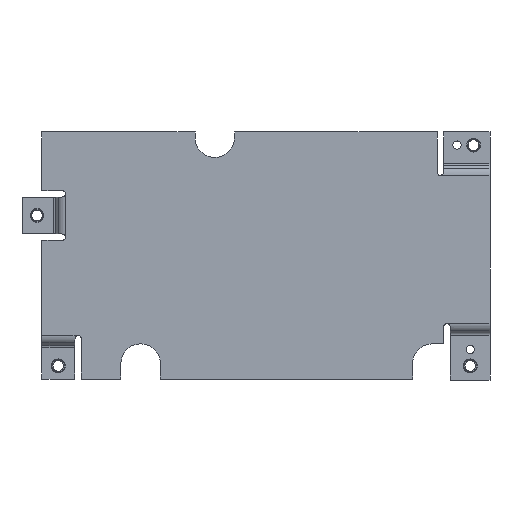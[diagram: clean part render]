
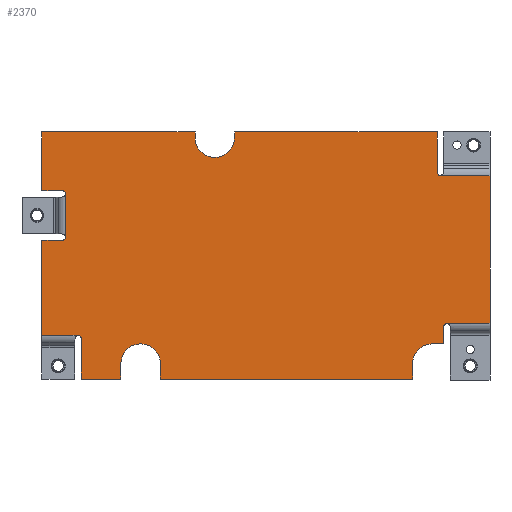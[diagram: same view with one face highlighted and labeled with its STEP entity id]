
A CAD part, front view. The second image highlights one B-rep face of the part: STEP entity #2370.
In plain terms, the highlighted planar face has unit normal (0, -1, 0).
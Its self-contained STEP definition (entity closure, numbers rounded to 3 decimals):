
#154=DIRECTION('',(1.,0.,0.));
#155=VECTOR('',#154,11.);
#156=CARTESIAN_POINT('',(-68.,-2.,-24.257));
#157=LINE('',#156,#155);
#169=CARTESIAN_POINT('',(55.,-2.,-21.557));
#170=DIRECTION('',(0.,1.,0.));
#171=DIRECTION('',(-1.,0.,0.));
#172=AXIS2_PLACEMENT_3D('',#169,#170,#171);
#174=DIRECTION('',(0.,0.,1.));
#175=VECTOR('',#174,5.243);
#176=CARTESIAN_POINT('',(54.,-2.,-26.8));
#177=LINE('',#176,#175);
#178=DIRECTION('',(-1.,0.,0.));
#179=VECTOR('',#178,3.5);
#180=CARTESIAN_POINT('',(54.,-2.,-26.8));
#181=LINE('',#180,#179);
#182=CARTESIAN_POINT('',(50.5,-2.,-32.8));
#183=DIRECTION('',(0.,1.,0.));
#184=DIRECTION('',(-1.,0.,0.));
#185=AXIS2_PLACEMENT_3D('',#182,#183,#184);
#187=DIRECTION('',(0.,0.,1.));
#188=VECTOR('',#187,4.7);
#189=CARTESIAN_POINT('',(44.5,-2.,-37.5));
#190=LINE('',#189,#188);
#191=DIRECTION('',(1.,0.,0.));
#192=VECTOR('',#191,76.5);
#193=CARTESIAN_POINT('',(-32.,-2.,-37.5));
#194=LINE('',#193,#192);
#195=DIRECTION('',(0.,0.,1.));
#196=VECTOR('',#195,4.7);
#197=CARTESIAN_POINT('',(-32.,-2.,-37.5));
#198=LINE('',#197,#196);
#199=CARTESIAN_POINT('',(-38.,-2.,-32.8));
#200=DIRECTION('',(0.,1.,0.));
#201=DIRECTION('',(-1.,0.,0.));
#202=AXIS2_PLACEMENT_3D('',#199,#200,#201);
#204=DIRECTION('',(0.,0.,1.));
#205=VECTOR('',#204,4.7);
#206=CARTESIAN_POINT('',(-44.,-2.,-37.5));
#207=LINE('',#206,#205);
#208=DIRECTION('',(1.,0.,0.));
#209=VECTOR('',#208,12.);
#210=CARTESIAN_POINT('',(-56.,-2.,-37.5));
#211=LINE('',#210,#209);
#212=DIRECTION('',(0.,0.,1.));
#213=VECTOR('',#212,12.);
#214=CARTESIAN_POINT('',(-56.,-2.,-37.5));
#215=LINE('',#214,#213);
#216=DIRECTION('',(0.,0.,1.));
#217=VECTOR('',#216,0.243);
#218=CARTESIAN_POINT('',(-56.,-2.,-25.5));
#219=LINE('',#218,#217);
#220=CARTESIAN_POINT('',(-57.,-2.,-25.257));
#221=DIRECTION('',(0.,-1.,0.));
#222=DIRECTION('',(1.,0.,0.));
#223=AXIS2_PLACEMENT_3D('',#220,#221,#222);
#225=DIRECTION('',(0.,0.,-1.));
#226=VECTOR('',#225,28.897);
#227=CARTESIAN_POINT('',(-68.,-2.,4.64));
#228=LINE('',#227,#226);
#229=DIRECTION('',(1.,0.,0.));
#230=VECTOR('',#229,6.);
#231=CARTESIAN_POINT('',(-68.,-2.,4.64));
#232=LINE('',#231,#230);
#233=DIRECTION('',(1.,0.,0.));
#234=VECTOR('',#233,0.243);
#235=CARTESIAN_POINT('',(-62.,-2.,4.64));
#236=LINE('',#235,#234);
#237=CARTESIAN_POINT('',(-61.757,-2.,5.64));
#238=DIRECTION('',(0.,-1.,0.));
#239=DIRECTION('',(0.,0.,-1.));
#240=AXIS2_PLACEMENT_3D('',#237,#238,#239);
#242=CARTESIAN_POINT('',(-61.757,-2.,18.64));
#243=DIRECTION('',(0.,1.,0.));
#244=DIRECTION('',(0.,0.,1.));
#245=AXIS2_PLACEMENT_3D('',#242,#243,#244);
#247=DIRECTION('',(1.,0.,0.));
#248=VECTOR('',#247,0.243);
#249=CARTESIAN_POINT('',(-62.,-2.,19.64));
#250=LINE('',#249,#248);
#251=DIRECTION('',(1.,0.,0.));
#252=VECTOR('',#251,6.);
#253=CARTESIAN_POINT('',(-68.,-2.,19.64));
#254=LINE('',#253,#252);
#255=DIRECTION('',(0.,0.,-1.));
#256=VECTOR('',#255,17.86);
#257=CARTESIAN_POINT('',(-68.,-2.,37.5));
#258=LINE('',#257,#256);
#259=DIRECTION('',(-1.,0.,0.));
#260=VECTOR('',#259,46.5);
#261=CARTESIAN_POINT('',(-21.5,-2.,37.5));
#262=LINE('',#261,#260);
#263=DIRECTION('',(0.,0.,-1.));
#264=VECTOR('',#263,1.78);
#265=CARTESIAN_POINT('',(-21.5,-2.,37.5));
#266=LINE('',#265,#264);
#267=CARTESIAN_POINT('',(-15.5,-2.,35.72));
#268=DIRECTION('',(0.,1.,0.));
#269=DIRECTION('',(1.,0.,0.));
#270=AXIS2_PLACEMENT_3D('',#267,#268,#269);
#272=DIRECTION('',(0.,0.,-1.));
#273=VECTOR('',#272,1.78);
#274=CARTESIAN_POINT('',(-9.5,-2.,37.5));
#275=LINE('',#274,#273);
#276=DIRECTION('',(-1.,0.,0.));
#277=VECTOR('',#276,61.5);
#278=CARTESIAN_POINT('',(52.,-2.,37.5));
#279=LINE('',#278,#277);
#280=DIRECTION('',(0.,0.,-1.));
#281=VECTOR('',#280,12.);
#282=CARTESIAN_POINT('',(52.,-2.,37.5));
#283=LINE('',#282,#281);
#284=DIRECTION('',(0.,0.,-1.));
#285=VECTOR('',#284,0.243);
#286=CARTESIAN_POINT('',(52.,-2.,25.5));
#287=LINE('',#286,#285);
#288=CARTESIAN_POINT('',(53.,-2.,25.257));
#289=DIRECTION('',(0.,-1.,0.));
#290=DIRECTION('',(-1.,0.,0.));
#291=AXIS2_PLACEMENT_3D('',#288,#289,#290);
#293=DIRECTION('',(0.,0.,1.));
#294=VECTOR('',#293,44.815);
#295=CARTESIAN_POINT('',(68.,-2.,-20.557));
#296=LINE('',#295,#294);
#308=DIRECTION('',(1.,0.,0.));
#309=VECTOR('',#308,13.);
#310=CARTESIAN_POINT('',(55.,-2.,-20.557));
#311=LINE('',#310,#309);
#796=DIRECTION('',(-1.,0.,0.));
#797=VECTOR('',#796,15.);
#798=CARTESIAN_POINT('',(68.,-2.,24.257));
#799=LINE('',#798,#797);
#882=DIRECTION('',(0.,0.,-1.));
#883=VECTOR('',#882,13.);
#884=CARTESIAN_POINT('',(-60.757,-2.,18.64));
#885=LINE('',#884,#883);
#1624=CARTESIAN_POINT('',(-68.,-2.,37.5));
#1626=VERTEX_POINT('',#1624);
#1647=CARTESIAN_POINT('',(-44.,-2.,-37.5));
#1648=CARTESIAN_POINT('',(-44.,-2.,-32.8));
#1649=VERTEX_POINT('',#1647);
#1650=VERTEX_POINT('',#1648);
#1651=CARTESIAN_POINT('',(-32.,-2.,-37.5));
#1652=CARTESIAN_POINT('',(-32.,-2.,-32.8));
#1653=VERTEX_POINT('',#1651);
#1654=VERTEX_POINT('',#1652);
#1655=CARTESIAN_POINT('',(44.5,-2.,-37.5));
#1656=CARTESIAN_POINT('',(44.5,-2.,-32.8));
#1657=VERTEX_POINT('',#1655);
#1658=VERTEX_POINT('',#1656);
#1659=CARTESIAN_POINT('',(-9.5,-2.,35.72));
#1660=CARTESIAN_POINT('',(-21.5,-2.,35.72));
#1661=VERTEX_POINT('',#1659);
#1662=VERTEX_POINT('',#1660);
#1663=CARTESIAN_POINT('',(-9.5,-2.,37.5));
#1664=VERTEX_POINT('',#1663);
#1665=CARTESIAN_POINT('',(-21.5,-2.,37.5));
#1666=VERTEX_POINT('',#1665);
#1673=CARTESIAN_POINT('',(-68.,-2.,19.64));
#1674=VERTEX_POINT('',#1673);
#1675=CARTESIAN_POINT('',(52.,-2.,37.5));
#1676=VERTEX_POINT('',#1675);
#1677=CARTESIAN_POINT('',(-56.,-2.,-37.5));
#1678=VERTEX_POINT('',#1677);
#1680=CARTESIAN_POINT('',(-68.,-2.,4.64));
#1682=VERTEX_POINT('',#1680);
#1691=CARTESIAN_POINT('',(-68.,-2.,-24.257));
#1693=VERTEX_POINT('',#1691);
#1723=CARTESIAN_POINT('',(-56.,-2.,-25.5));
#1724=CARTESIAN_POINT('',(-56.,-2.,-25.257));
#1725=VERTEX_POINT('',#1723);
#1726=VERTEX_POINT('',#1724);
#1729=CARTESIAN_POINT('',(-57.,-2.,-24.257));
#1730=VERTEX_POINT('',#1729);
#1741=CARTESIAN_POINT('',(68.,-2.,24.257));
#1743=VERTEX_POINT('',#1741);
#1773=CARTESIAN_POINT('',(52.,-2.,25.5));
#1774=CARTESIAN_POINT('',(52.,-2.,25.257));
#1775=VERTEX_POINT('',#1773);
#1776=VERTEX_POINT('',#1774);
#1779=CARTESIAN_POINT('',(53.,-2.,24.257));
#1780=VERTEX_POINT('',#1779);
#1835=CARTESIAN_POINT('',(-62.,-2.,4.64));
#1836=CARTESIAN_POINT('',(-61.757,-2.,4.64));
#1837=VERTEX_POINT('',#1835);
#1838=VERTEX_POINT('',#1836);
#1841=CARTESIAN_POINT('',(-60.757,-2.,5.64));
#1842=VERTEX_POINT('',#1841);
#1849=CARTESIAN_POINT('',(-62.,-2.,19.64));
#1850=CARTESIAN_POINT('',(-61.757,-2.,19.64));
#1851=VERTEX_POINT('',#1849);
#1852=VERTEX_POINT('',#1850);
#1855=CARTESIAN_POINT('',(-60.757,-2.,18.64));
#1856=VERTEX_POINT('',#1855);
#1869=CARTESIAN_POINT('',(50.5,-2.,-26.8));
#1870=VERTEX_POINT('',#1869);
#1871=CARTESIAN_POINT('',(68.,-2.,-20.557));
#1872=VERTEX_POINT('',#1871);
#1911=CARTESIAN_POINT('',(54.,-2.,-26.8));
#1912=CARTESIAN_POINT('',(54.,-2.,-21.557));
#1913=VERTEX_POINT('',#1911);
#1914=VERTEX_POINT('',#1912);
#1917=CARTESIAN_POINT('',(55.,-2.,-20.557));
#1918=VERTEX_POINT('',#1917);
#2296=CARTESIAN_POINT('',(0.,-2.,0.));
#2297=DIRECTION('',(0.,1.,0.));
#2298=DIRECTION('',(1.,0.,0.));
#2299=AXIS2_PLACEMENT_3D('',#2296,#2297,#2298);
#2300=PLANE('',#2299);
#2302=ORIENTED_EDGE('',*,*,#2301,.F.);
#2304=ORIENTED_EDGE('',*,*,#2303,.F.);
#2306=ORIENTED_EDGE('',*,*,#2305,.F.);
#2308=ORIENTED_EDGE('',*,*,#2307,.T.);
#2310=ORIENTED_EDGE('',*,*,#2309,.F.);
#2312=ORIENTED_EDGE('',*,*,#2311,.F.);
#2314=ORIENTED_EDGE('',*,*,#2313,.F.);
#2316=ORIENTED_EDGE('',*,*,#2315,.T.);
#2318=ORIENTED_EDGE('',*,*,#2317,.F.);
#2320=ORIENTED_EDGE('',*,*,#2319,.F.);
#2322=ORIENTED_EDGE('',*,*,#2321,.F.);
#2324=ORIENTED_EDGE('',*,*,#2323,.T.);
#2326=ORIENTED_EDGE('',*,*,#2325,.T.);
#2328=ORIENTED_EDGE('',*,*,#2327,.T.);
#2329=ORIENTED_EDGE('',*,*,#2285,.F.);
#2331=ORIENTED_EDGE('',*,*,#2330,.F.);
#2333=ORIENTED_EDGE('',*,*,#2332,.T.);
#2335=ORIENTED_EDGE('',*,*,#2334,.T.);
#2337=ORIENTED_EDGE('',*,*,#2336,.T.);
#2339=ORIENTED_EDGE('',*,*,#2338,.F.);
#2341=ORIENTED_EDGE('',*,*,#2340,.F.);
#2343=ORIENTED_EDGE('',*,*,#2342,.F.);
#2345=ORIENTED_EDGE('',*,*,#2344,.F.);
#2347=ORIENTED_EDGE('',*,*,#2346,.F.);
#2349=ORIENTED_EDGE('',*,*,#2348,.F.);
#2351=ORIENTED_EDGE('',*,*,#2350,.T.);
#2353=ORIENTED_EDGE('',*,*,#2352,.F.);
#2355=ORIENTED_EDGE('',*,*,#2354,.F.);
#2357=ORIENTED_EDGE('',*,*,#2356,.F.);
#2359=ORIENTED_EDGE('',*,*,#2358,.T.);
#2361=ORIENTED_EDGE('',*,*,#2360,.T.);
#2363=ORIENTED_EDGE('',*,*,#2362,.T.);
#2365=ORIENTED_EDGE('',*,*,#2364,.F.);
#2367=ORIENTED_EDGE('',*,*,#2366,.F.);
#2368=EDGE_LOOP('',(#2302,#2304,#2306,#2308,#2310,#2312,#2314,#2316,#2318,#2320,
#2322,#2324,#2326,#2328,#2329,#2331,#2333,#2335,#2337,#2339,#2341,#2343,#2345,
#2347,#2349,#2351,#2353,#2355,#2357,#2359,#2361,#2363,#2365,#2367));
#2369=FACE_OUTER_BOUND('',#2368,.F.);
#2370=ADVANCED_FACE('',(#2369),#2300,.F.);
#173=CIRCLE('',#172,1.);
#186=CIRCLE('',#185,6.);
#203=CIRCLE('',#202,6.);
#224=CIRCLE('',#223,1.);
#241=CIRCLE('',#240,1.);
#246=CIRCLE('',#245,1.);
#271=CIRCLE('',#270,6.);
#292=CIRCLE('',#291,1.);
#2285=EDGE_CURVE('',#1693,#1730,#157,.T.);
#2301=EDGE_CURVE('',#1918,#1872,#311,.T.);
#2303=EDGE_CURVE('',#1914,#1918,#173,.T.);
#2305=EDGE_CURVE('',#1913,#1914,#177,.T.);
#2307=EDGE_CURVE('',#1913,#1870,#181,.T.);
#2309=EDGE_CURVE('',#1658,#1870,#186,.T.);
#2311=EDGE_CURVE('',#1657,#1658,#190,.T.);
#2313=EDGE_CURVE('',#1653,#1657,#194,.T.);
#2315=EDGE_CURVE('',#1653,#1654,#198,.T.);
#2317=EDGE_CURVE('',#1650,#1654,#203,.T.);
#2319=EDGE_CURVE('',#1649,#1650,#207,.T.);
#2321=EDGE_CURVE('',#1678,#1649,#211,.T.);
#2323=EDGE_CURVE('',#1678,#1725,#215,.T.);
#2325=EDGE_CURVE('',#1725,#1726,#219,.T.);
#2327=EDGE_CURVE('',#1726,#1730,#224,.T.);
#2330=EDGE_CURVE('',#1682,#1693,#228,.T.);
#2332=EDGE_CURVE('',#1682,#1837,#232,.T.);
#2334=EDGE_CURVE('',#1837,#1838,#236,.T.);
#2336=EDGE_CURVE('',#1838,#1842,#241,.T.);
#2338=EDGE_CURVE('',#1856,#1842,#885,.T.);
#2340=EDGE_CURVE('',#1852,#1856,#246,.T.);
#2342=EDGE_CURVE('',#1851,#1852,#250,.T.);
#2344=EDGE_CURVE('',#1674,#1851,#254,.T.);
#2346=EDGE_CURVE('',#1626,#1674,#258,.T.);
#2348=EDGE_CURVE('',#1666,#1626,#262,.T.);
#2350=EDGE_CURVE('',#1666,#1662,#266,.T.);
#2352=EDGE_CURVE('',#1661,#1662,#271,.T.);
#2354=EDGE_CURVE('',#1664,#1661,#275,.T.);
#2356=EDGE_CURVE('',#1676,#1664,#279,.T.);
#2358=EDGE_CURVE('',#1676,#1775,#283,.T.);
#2360=EDGE_CURVE('',#1775,#1776,#287,.T.);
#2362=EDGE_CURVE('',#1776,#1780,#292,.T.);
#2364=EDGE_CURVE('',#1743,#1780,#799,.T.);
#2366=EDGE_CURVE('',#1872,#1743,#296,.T.);
